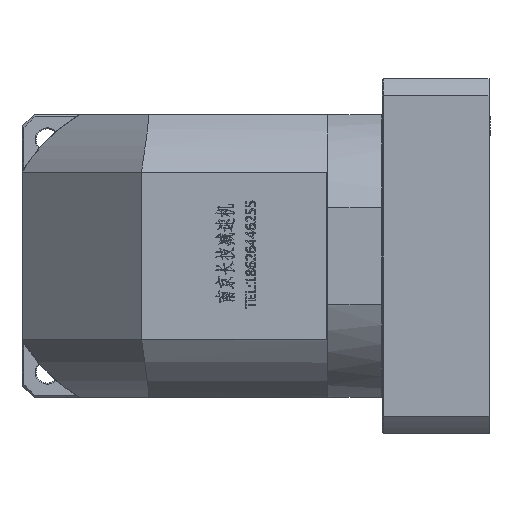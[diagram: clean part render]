
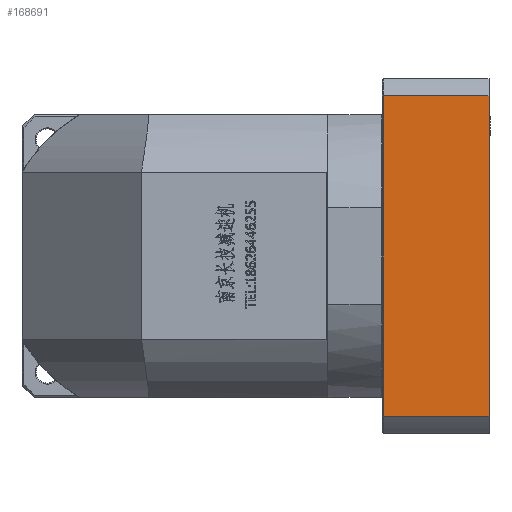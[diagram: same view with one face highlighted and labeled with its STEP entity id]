
A CAD part, left-side view. The second image highlights one B-rep face of the part: STEP entity #168691.
In plain terms, the highlighted planar face has unit normal (-1, 0, 0).
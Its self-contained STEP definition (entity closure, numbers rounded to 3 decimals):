
#2370 = AXIS2_PLACEMENT_3D ( 'NONE', #7070, #7661, #147679 ) ;
#5815 = CARTESIAN_POINT ( 'NONE',  ( -47.552, -170.319, 317.864 ) ) ;
#5833 = DIRECTION ( 'NONE',  ( 0., 0., -1. ) ) ;
#7070 = CARTESIAN_POINT ( 'NONE',  ( -47.552, -223.819, 148.371 ) ) ;
#7661 = DIRECTION ( 'NONE',  ( 1., 0., 0. ) ) ;
#8095 = VECTOR ( 'NONE', #62832, 1000. ) ;
#9412 = VECTOR ( 'NONE', #22994, 1000. ) ;
#12506 = EDGE_CURVE ( 'NONE', #69508, #42463, #20878, .T. ) ;
#20878 = LINE ( 'NONE', #103649, #8095 ) ;
#21369 = ORIENTED_EDGE ( 'NONE', *, *, #85731, .F. ) ;
#22994 = DIRECTION ( 'NONE',  ( 0., 0., -1. ) ) ;
#23180 = LINE ( 'NONE', #75871, #108066 ) ;
#40699 = LINE ( 'NONE', #94599, #108536 ) ;
#42463 = VERTEX_POINT ( 'NONE', #47922 ) ;
#45881 = ORIENTED_EDGE ( 'NONE', *, *, #12506, .F. ) ;
#47922 = CARTESIAN_POINT ( 'NONE',  ( -47.552, -170.319, 156.879 ) ) ;
#56157 = VERTEX_POINT ( 'NONE', #156972 ) ;
#57766 = EDGE_CURVE ( 'NONE', #61939, #42463, #23180, .T. ) ;
#61939 = VERTEX_POINT ( 'NONE', #5815 ) ;
#62832 = DIRECTION ( 'NONE',  ( 0., 1., 0. ) ) ;
#69508 = VERTEX_POINT ( 'NONE', #170297 ) ;
#75871 = CARTESIAN_POINT ( 'NONE',  ( -47.552, -170.319, 148.371 ) ) ;
#80775 = ORIENTED_EDGE ( 'NONE', *, *, #57766, .T. ) ;
#80857 = EDGE_LOOP ( 'NONE', ( #112502, #80775, #45881, #21369 ) ) ;
#85731 = EDGE_CURVE ( 'NONE', #56157, #69508, #122042, .T. ) ;
#92284 = FACE_OUTER_BOUND ( 'NONE', #80857, .T. ) ;
#94599 = CARTESIAN_POINT ( 'NONE',  ( -47.552, -223.819, 317.864 ) ) ;
#96716 = EDGE_CURVE ( 'NONE', #61939, #56157, #40699, .T. ) ;
#103649 = CARTESIAN_POINT ( 'NONE',  ( -47.552, 172.986, 156.879 ) ) ;
#108066 = VECTOR ( 'NONE', #5833, 1000. ) ;
#108536 = VECTOR ( 'NONE', #120220, 1000. ) ;
#112502 = ORIENTED_EDGE ( 'NONE', *, *, #96716, .F. ) ;
#116154 = CARTESIAN_POINT ( 'NONE',  ( -47.552, -223.319, 148.371 ) ) ;
#120220 = DIRECTION ( 'NONE',  ( 0., -1., 0. ) ) ;
#122042 = LINE ( 'NONE', #116154, #9412 ) ;
#147679 = DIRECTION ( 'NONE',  ( 0., 1., 0. ) ) ;
#156972 = CARTESIAN_POINT ( 'NONE',  ( -47.552, -223.319, 317.864 ) ) ;
#168691 = ADVANCED_FACE ( 'NONE', ( #92284 ), #170808, .F. ) ;
#170297 = CARTESIAN_POINT ( 'NONE',  ( -47.552, -223.319, 156.879 ) ) ;
#170808 = PLANE ( 'NONE',  #2370 ) ;
